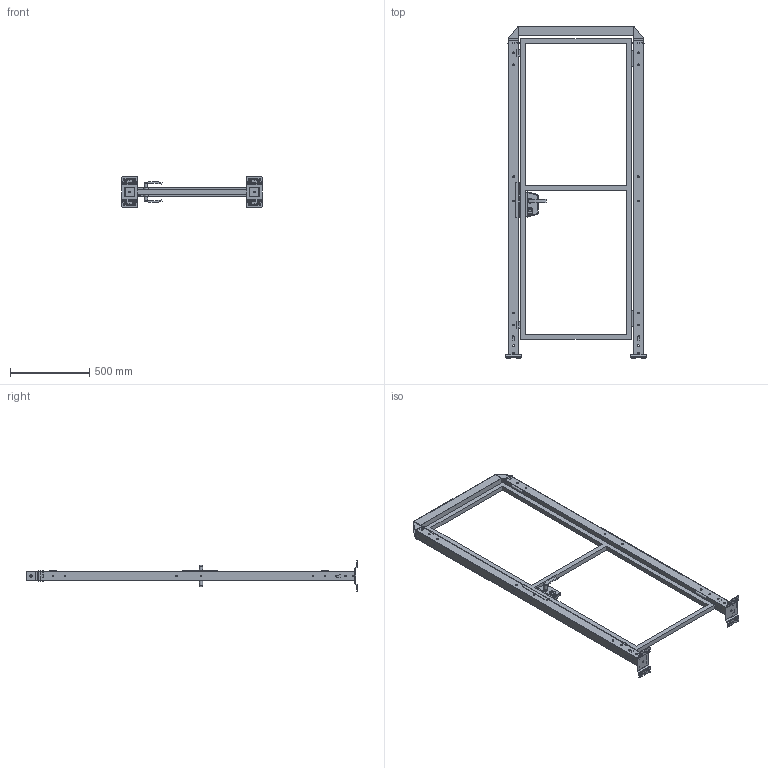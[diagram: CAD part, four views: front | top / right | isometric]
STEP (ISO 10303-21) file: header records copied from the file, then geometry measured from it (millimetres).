
FILE_DESCRIPTION(('STEP AP242'),'1');
FILE_NAME('vfda_bscgd03_07002020.stp','2025-01-23T12:23:09',('TraceParts'),('TraceParts S.A.'),'Spatial InterOp 3D',' ',' ');
FILE_SCHEMA(('AP242_MANAGED_MODEL_BASED_3D_ENGINEERING_MIM_LF {1 0 10303 442 1 1 4}'));
Length unit declared in the file: millimetre
Products named in the file (1): vfda_bscgd03_07002020_1
Bounding box: 890 x 2101 x 192 mm (x, y, z)
Volume: 7654388.3 mm3; surface area: 3216625 mm2
Topology: 13 solids, 13 shells, 1629 faces, 4331 edges, 2766 vertices
Faces by surface type: plane 807, cylinder 554, bspline 194, cone 46, torus 28
Entity records: 67608 total; most frequent: CARTESIAN_POINT 14334, ORIENTED_EDGE 8662, DIRECTION 7987, EDGE_CURVE 4331, VERTEX_POINT 2766, AXIS2_PLACEMENT_3D 2674, LINE 2639, VECTOR 2639
